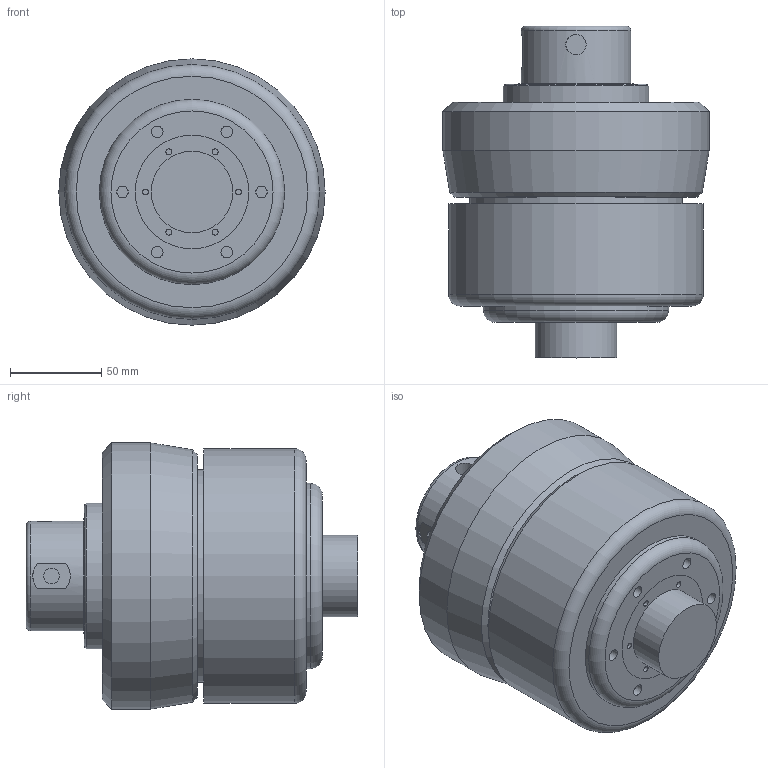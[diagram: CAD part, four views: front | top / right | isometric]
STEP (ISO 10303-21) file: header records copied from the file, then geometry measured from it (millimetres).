
FILE_DESCRIPTION (( 'STEP AP214' ), '1' );
FILE_NAME ('DBH060 TOP MOUNT.STEP', '2013-04-24T18:54:47', ( '' ), ( '' ), 'SwSTEP 2.0', 'SolidWorks 2012', '' );
FILE_SCHEMA (( 'AUTOMOTIVE_DESIGN' ));
Length unit declared in the file: inch
Products named in the file (1): DBH060 TOP MOUNT
Bounding box: 146.05 x 181.99 x 146.05 mm (x, y, z)
Volume: 1971510.6 mm3; surface area: 103286.9 mm2
Topology: 1 solids, 1 shells, 81 faces, 134 edges, 91 vertices
Faces by surface type: plane 38, cylinder 36, cone 4, torus 3
Full cylindrical faces by diameter (mm): 3.251 x18, 6.35 x6, 8.611 x1, 11.125 x1, 44.704 x1, 60.325 x1, 62.611 x1, 80.01 x1, 101.6 x1, 116.611 x1, 139.7 x1, 146.05 x1
Entity records: 1937 total; most frequent: CARTESIAN_POINT 375, DIRECTION 322, ORIENTED_EDGE 166, AXIS2_PLACEMENT_3D 160, EDGE_LOOP 158, FACE_OUTER_BOUND 118, EDGE_CURVE 83, ADVANCED_FACE 81
